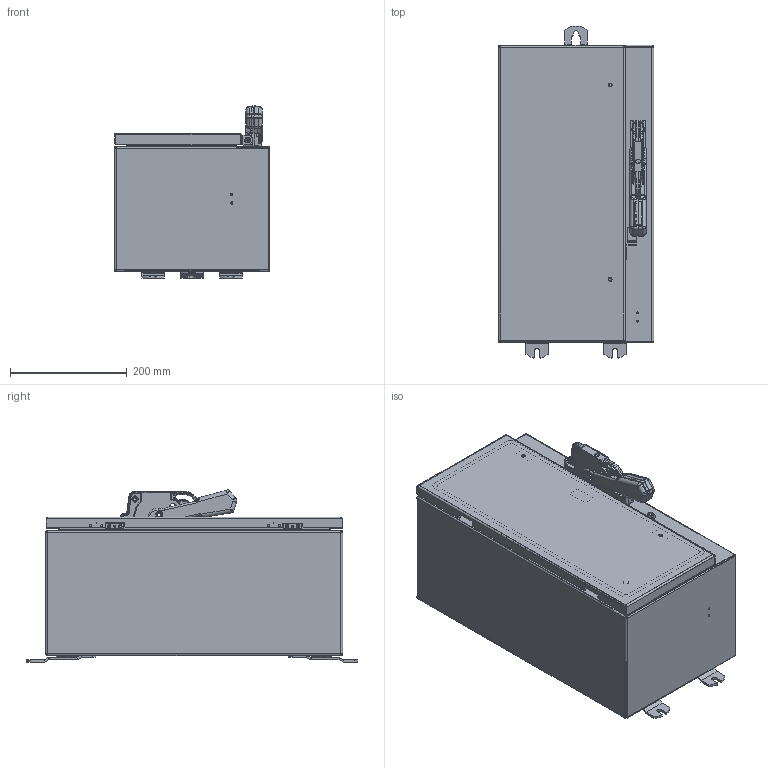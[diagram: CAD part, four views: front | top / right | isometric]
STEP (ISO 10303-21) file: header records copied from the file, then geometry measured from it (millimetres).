
FILE_DESCRIPTION((''),'2;1');
FILE_NAME('20X10-TYPE12_ASM','2008-06-13T',('abschul1'),('Rockwell Automation'),'PRO/ENGINEER BY PARAMETRIC TECHNOLOGY CORPORATION, 2004320','PRO/ENGINEER BY PARAMETRIC TECHNOLOGY CORPORATION, 2004320','');
FILE_SCHEMA(('CONFIG_CONTROL_DESIGN'));
Length unit declared in the file: inch
Products named in the file (25): 40406-293-LHWRP-FM; 40406-293-BACKPL; 40406-293-RHSIDE; 40406-062; 40406-B37574; 40406-M7881; 41021-105; 41021-WELD-PROJ; 41021-105-PROJ01; 41021-105_ASM; 40406-070; 40406-293-BASE_ASM; 40406-293-DOOR1HOL; B-35623; 40406-293-GASKET1; 40406-B36552; 40406-B37393; 40406-293-DOORASM1_ASM; 40406-293-CLOSED_ASM; 40392-018; 40392-015; 40392-016; 40045-SMALL-HDL-OFF_ASM; 40406-40406001; 20X10-TYPE12_ASM
Assembly tree (36 placements, depth 5):
  20X10-TYPE12_ASM
    40406-293-CLOSED_ASM
      40406-293-BASE_ASM
        40406-293-LHWRP-FM
        40406-293-BACKPL
        40406-293-RHSIDE
        40406-062  x2
        40406-B37574  x4
        40406-M7881
        41021-105_ASM  x2
          41021-105
          41021-WELD-PROJ
          41021-105-PROJ01
        40406-070
      40406-293-DOORASM1_ASM
        40406-293-DOOR1HOL
        B-35623  x2
        40406-293-GASKET1
        40406-M7881
        40406-070
        40406-B36552
        40406-B37393  x2
    40045-SMALL-HDL-OFF_ASM
      40392-018
      40392-015
      40392-016
    40406-40406001  x3
Bounding box: 266.7 x 569.04 x 295.07 mm (x, y, z)
Volume: 1301623.2 mm3; surface area: 1556159.2 mm2
Topology: 34 solids, 35 shells, 3423 faces, 8083 edges, 4781 vertices
Faces by surface type: plane 1075, cylinder 982, cone 462, bspline 413, torus 377, sphere 114
Entity records: 103690 total; most frequent: CARTESIAN_POINT 36225, ORIENTED_EDGE 14064, DIRECTION 14034, EDGE_CURVE 7056, AXIS2_PLACEMENT_3D 5477, VERTEX_POINT 4204, EDGE_LOOP 3167, VECTOR 3080
